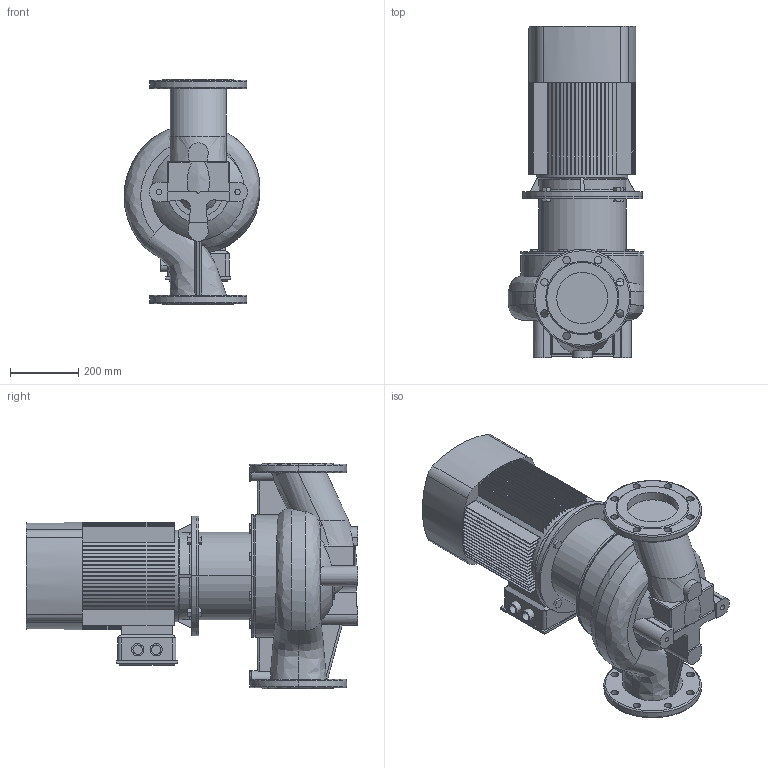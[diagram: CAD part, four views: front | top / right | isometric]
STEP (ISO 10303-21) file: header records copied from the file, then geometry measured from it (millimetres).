
FILE_DESCRIPTION (( 'STEP AP203' ), '1' );
FILE_NAME ('TD150-12.5G_4.STEP', '2022-05-02T17:23:43', ( '' ), ( '' ), 'SwSTEP 2.0', 'SolidWorks 2019', '' );
FILE_SCHEMA (( 'CONFIG_CONTROL_DESIGN' ));
Length unit declared in the file: millimetre
Products named in the file (4): TD150-12.5G_4; Fon_150_TD150-12.5G_4; ED_B5_YE2-160M-4 (11); Pr_ch 150_TD150-12.5G_4
Assembly tree (3 placements, depth 2):
  TD150-12.5G_4
    Pr_ch 150_TD150-12.5G_4
    Fon_150_TD150-12.5G_4
    ED_B5_YE2-160M-4 (11)
Bounding box: 397.74 x 972 x 660 mm (x, y, z)
Volume: 73443477.5 mm3; surface area: 3299806.5 mm2
Topology: 5 solids, 7 shells, 736 faces, 2020 edges, 1334 vertices
Faces by surface type: plane 498, cylinder 160, torus 33, bspline 26, cone 17, sphere 2
Entity records: 31364 total; most frequent: CARTESIAN_POINT 11991, ORIENTED_EDGE 4032, DIRECTION 3926, EDGE_CURVE 2016, AXIS2_PLACEMENT_3D 1366, VERTEX_POINT 1334, LINE 1194, VECTOR 1194
